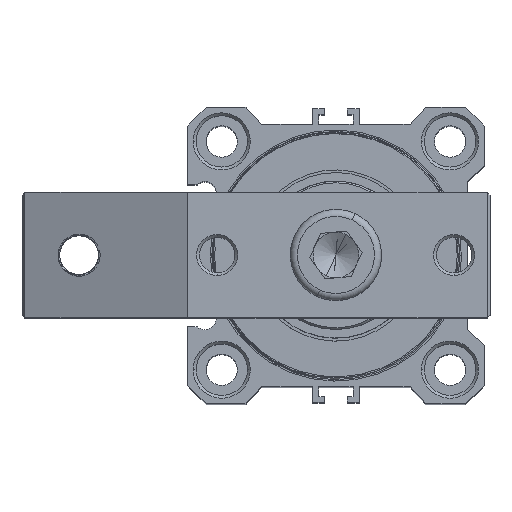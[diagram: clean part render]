
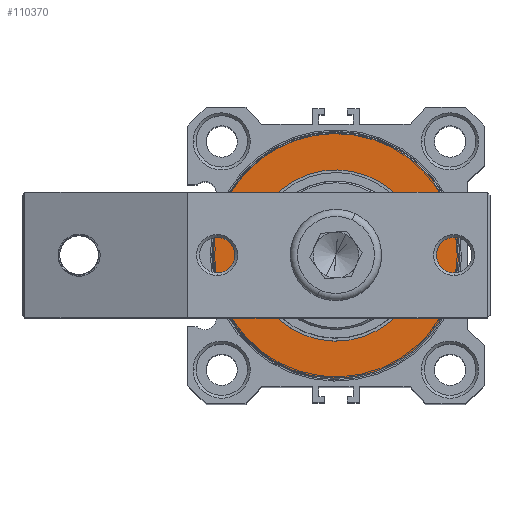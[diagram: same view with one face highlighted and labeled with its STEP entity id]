
A CAD part, top view. The second image highlights one B-rep face of the part: STEP entity #110370.
In plain terms, the highlighted planar face has unit normal (0, 0, 1) as drawn and (0, 1, 0) by its records, which use the part's own axes.
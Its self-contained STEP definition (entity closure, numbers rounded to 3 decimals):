
#105642 = CONICAL_SURFACE('',#105643,22.,0.778);
#105643 = AXIS2_PLACEMENT_3D('',#105644,#105645,#105646);
#105644 = CARTESIAN_POINT('',(-52.576,-100.178,0.));
#105645 = DIRECTION('',(-0.,-1.,-0.));
#105646 = DIRECTION('',(0.,0.,-1.));
#109641 = CYLINDRICAL_SURFACE('',#109642,15.);
#109642 = AXIS2_PLACEMENT_3D('',#109643,#109644,#109645);
#109643 = CARTESIAN_POINT('',(-52.576,-116.705,0.));
#109644 = DIRECTION('',(-0.,-1.,-0.));
#109645 = DIRECTION('',(0.,0.,-1.));
#109670 = VERTEX_POINT('',#109671);
#109671 = CARTESIAN_POINT('',(-52.576,-99.631,
    15.));
#109685 = CYLINDRICAL_SURFACE('',#109686,15.);
#109686 = AXIS2_PLACEMENT_3D('',#109687,#109688,#109689);
#109687 = CARTESIAN_POINT('',(-52.576,-116.705,0.));
#109688 = DIRECTION('',(-0.,-1.,-0.));
#109689 = DIRECTION('',(0.,0.,-1.));
#109697 = EDGE_CURVE('',#109698,#109670,#109700,.T.);
#109698 = VERTEX_POINT('',#109699);
#109699 = CARTESIAN_POINT('',(-52.576,-99.631,-15.));
#109700 = SURFACE_CURVE('',#109701,(#109706,#109713),.PCURVE_S1.);
#109701 = CIRCLE('',#109702,15.);
#109702 = AXIS2_PLACEMENT_3D('',#109703,#109704,#109705);
#109703 = CARTESIAN_POINT('',(-52.576,-99.631,0.));
#109704 = DIRECTION('',(0.,-1.,-0.));
#109705 = DIRECTION('',(0.,0.,-1.));
#109706 = PCURVE('',#109641,#109707);
#109707 = DEFINITIONAL_REPRESENTATION('',(#109708),#109712);
#109708 = LINE('',#109709,#109710);
#109709 = CARTESIAN_POINT('',(0.,-17.074));
#109710 = VECTOR('',#109711,1.);
#109711 = DIRECTION('',(1.,0.));
#109712 = ( GEOMETRIC_REPRESENTATION_CONTEXT(2) 
PARAMETRIC_REPRESENTATION_CONTEXT() REPRESENTATION_CONTEXT('2D SPACE',''
  ) );
#109713 = PCURVE('',#109714,#109719);
#109714 = PLANE('',#109715);
#109715 = AXIS2_PLACEMENT_3D('',#109716,#109717,#109718);
#109716 = CARTESIAN_POINT('',(-37.576,-99.631,0.));
#109717 = DIRECTION('',(0.,1.,0.));
#109718 = DIRECTION('',(0.,-0.,1.));
#109719 = DEFINITIONAL_REPRESENTATION('',(#109720),#109728);
#109720 = ( BOUNDED_CURVE() B_SPLINE_CURVE(2,(#109721,#109722,#109723,
    #109724,#109725,#109726,#109727),.UNSPECIFIED.,.T.,.F.) 
B_SPLINE_CURVE_WITH_KNOTS((1,2,2,2,2,1),(-2.094,0.,
    2.094,4.189,6.283,8.378),
.UNSPECIFIED.) CURVE() GEOMETRIC_REPRESENTATION_ITEM() 
RATIONAL_B_SPLINE_CURVE((1.,0.5,1.,0.5,1.,0.5,1.)) REPRESENTATION_ITEM(
  '') );
#109721 = CARTESIAN_POINT('',(-15.,-15.));
#109722 = CARTESIAN_POINT('',(-15.,10.981));
#109723 = CARTESIAN_POINT('',(7.5,-2.01));
#109724 = CARTESIAN_POINT('',(30.,-15.));
#109725 = CARTESIAN_POINT('',(7.5,-27.99));
#109726 = CARTESIAN_POINT('',(-15.,-40.981));
#109727 = CARTESIAN_POINT('',(-15.,-15.));
#109728 = ( GEOMETRIC_REPRESENTATION_CONTEXT(2) 
PARAMETRIC_REPRESENTATION_CONTEXT() REPRESENTATION_CONTEXT('2D SPACE',''
  ) );
#109754 = EDGE_CURVE('',#109755,#109757,#109759,.T.);
#109755 = VERTEX_POINT('',#109756);
#109756 = CARTESIAN_POINT('',(-52.576,-99.631,
    -21.461));
#109757 = VERTEX_POINT('',#109758);
#109758 = CARTESIAN_POINT('',(-52.576,-99.631,
    21.461));
#109759 = SURFACE_CURVE('',#109760,(#109765,#109772),.PCURVE_S1.);
#109760 = CIRCLE('',#109761,21.461);
#109761 = AXIS2_PLACEMENT_3D('',#109762,#109763,#109764);
#109762 = CARTESIAN_POINT('',(-52.576,-99.631,0.));
#109763 = DIRECTION('',(0.,-1.,-0.));
#109764 = DIRECTION('',(0.,0.,-1.));
#109765 = PCURVE('',#105642,#109766);
#109766 = DEFINITIONAL_REPRESENTATION('',(#109767),#109771);
#109767 = LINE('',#109768,#109769);
#109768 = CARTESIAN_POINT('',(0.,-0.547));
#109769 = VECTOR('',#109770,1.);
#109770 = DIRECTION('',(1.,0.));
#109771 = ( GEOMETRIC_REPRESENTATION_CONTEXT(2) 
PARAMETRIC_REPRESENTATION_CONTEXT() REPRESENTATION_CONTEXT('2D SPACE',''
  ) );
#109772 = PCURVE('',#109714,#109773);
#109773 = DEFINITIONAL_REPRESENTATION('',(#109774),#109782);
#109774 = ( BOUNDED_CURVE() B_SPLINE_CURVE(2,(#109775,#109776,#109777,
    #109778,#109779,#109780,#109781),.UNSPECIFIED.,.T.,.F.) 
B_SPLINE_CURVE_WITH_KNOTS((1,2,2,2,2,1),(-2.094,0.,
    2.094,4.189,6.283,8.378),
.UNSPECIFIED.) CURVE() GEOMETRIC_REPRESENTATION_ITEM() 
RATIONAL_B_SPLINE_CURVE((1.,0.5,1.,0.5,1.,0.5,1.)) REPRESENTATION_ITEM(
  '') );
#109775 = CARTESIAN_POINT('',(-21.461,-15.));
#109776 = CARTESIAN_POINT('',(-21.461,22.171));
#109777 = CARTESIAN_POINT('',(10.73,3.586));
#109778 = CARTESIAN_POINT('',(42.922,-15.));
#109779 = CARTESIAN_POINT('',(10.73,-33.586));
#109780 = CARTESIAN_POINT('',(-21.461,-52.171));
#109781 = CARTESIAN_POINT('',(-21.461,-15.));
#109782 = ( GEOMETRIC_REPRESENTATION_CONTEXT(2) 
PARAMETRIC_REPRESENTATION_CONTEXT() REPRESENTATION_CONTEXT('2D SPACE',''
  ) );
#109798 = CONICAL_SURFACE('',#109799,22.,0.778);
#109799 = AXIS2_PLACEMENT_3D('',#109800,#109801,#109802);
#109800 = CARTESIAN_POINT('',(-52.576,-100.178,0.));
#109801 = DIRECTION('',(-0.,-1.,-0.));
#109802 = DIRECTION('',(0.,0.,-1.));
#110322 = EDGE_CURVE('',#109757,#109755,#110323,.T.);
#110323 = SURFACE_CURVE('',#110324,(#110329,#110336),.PCURVE_S1.);
#110324 = CIRCLE('',#110325,21.461);
#110325 = AXIS2_PLACEMENT_3D('',#110326,#110327,#110328);
#110326 = CARTESIAN_POINT('',(-52.576,-99.631,0.));
#110327 = DIRECTION('',(0.,-1.,-0.));
#110328 = DIRECTION('',(0.,0.,-1.));
#110329 = PCURVE('',#109798,#110330);
#110330 = DEFINITIONAL_REPRESENTATION('',(#110331),#110335);
#110331 = LINE('',#110332,#110333);
#110332 = CARTESIAN_POINT('',(0.,-0.547));
#110333 = VECTOR('',#110334,1.);
#110334 = DIRECTION('',(1.,0.));
#110335 = ( GEOMETRIC_REPRESENTATION_CONTEXT(2) 
PARAMETRIC_REPRESENTATION_CONTEXT() REPRESENTATION_CONTEXT('2D SPACE',''
  ) );
#110336 = PCURVE('',#109714,#110337);
#110337 = DEFINITIONAL_REPRESENTATION('',(#110338),#110346);
#110338 = ( BOUNDED_CURVE() B_SPLINE_CURVE(2,(#110339,#110340,#110341,
    #110342,#110343,#110344,#110345),.UNSPECIFIED.,.T.,.F.) 
B_SPLINE_CURVE_WITH_KNOTS((1,2,2,2,2,1),(-2.094,0.,
    2.094,4.189,6.283,8.378),
.UNSPECIFIED.) CURVE() GEOMETRIC_REPRESENTATION_ITEM() 
RATIONAL_B_SPLINE_CURVE((1.,0.5,1.,0.5,1.,0.5,1.)) REPRESENTATION_ITEM(
  '') );
#110339 = CARTESIAN_POINT('',(-21.461,-15.));
#110340 = CARTESIAN_POINT('',(-21.461,22.171));
#110341 = CARTESIAN_POINT('',(10.73,3.586));
#110342 = CARTESIAN_POINT('',(42.922,-15.));
#110343 = CARTESIAN_POINT('',(10.73,-33.586));
#110344 = CARTESIAN_POINT('',(-21.461,-52.171));
#110345 = CARTESIAN_POINT('',(-21.461,-15.));
#110346 = ( GEOMETRIC_REPRESENTATION_CONTEXT(2) 
PARAMETRIC_REPRESENTATION_CONTEXT() REPRESENTATION_CONTEXT('2D SPACE',''
  ) );
#110370 = ADVANCED_FACE('',(#110371,#110400),#109714,.T.);
#110371 = FACE_BOUND('',#110372,.T.);
#110372 = EDGE_LOOP('',(#110373,#110374));
#110373 = ORIENTED_EDGE('',*,*,#109697,.T.);
#110374 = ORIENTED_EDGE('',*,*,#110375,.T.);
#110375 = EDGE_CURVE('',#109670,#109698,#110376,.T.);
#110376 = SURFACE_CURVE('',#110377,(#110382,#110393),.PCURVE_S1.);
#110377 = CIRCLE('',#110378,15.);
#110378 = AXIS2_PLACEMENT_3D('',#110379,#110380,#110381);
#110379 = CARTESIAN_POINT('',(-52.576,-99.631,0.));
#110380 = DIRECTION('',(0.,-1.,-0.));
#110381 = DIRECTION('',(0.,0.,-1.));
#110382 = PCURVE('',#109714,#110383);
#110383 = DEFINITIONAL_REPRESENTATION('',(#110384),#110392);
#110384 = ( BOUNDED_CURVE() B_SPLINE_CURVE(2,(#110385,#110386,#110387,
    #110388,#110389,#110390,#110391),.UNSPECIFIED.,.T.,.F.) 
B_SPLINE_CURVE_WITH_KNOTS((1,2,2,2,2,1),(-2.094,0.,
    2.094,4.189,6.283,8.378),
.UNSPECIFIED.) CURVE() GEOMETRIC_REPRESENTATION_ITEM() 
RATIONAL_B_SPLINE_CURVE((1.,0.5,1.,0.5,1.,0.5,1.)) REPRESENTATION_ITEM(
  '') );
#110385 = CARTESIAN_POINT('',(-15.,-15.));
#110386 = CARTESIAN_POINT('',(-15.,10.981));
#110387 = CARTESIAN_POINT('',(7.5,-2.01));
#110388 = CARTESIAN_POINT('',(30.,-15.));
#110389 = CARTESIAN_POINT('',(7.5,-27.99));
#110390 = CARTESIAN_POINT('',(-15.,-40.981));
#110391 = CARTESIAN_POINT('',(-15.,-15.));
#110392 = ( GEOMETRIC_REPRESENTATION_CONTEXT(2) 
PARAMETRIC_REPRESENTATION_CONTEXT() REPRESENTATION_CONTEXT('2D SPACE',''
  ) );
#110393 = PCURVE('',#109685,#110394);
#110394 = DEFINITIONAL_REPRESENTATION('',(#110395),#110399);
#110395 = LINE('',#110396,#110397);
#110396 = CARTESIAN_POINT('',(0.,-17.074));
#110397 = VECTOR('',#110398,1.);
#110398 = DIRECTION('',(1.,0.));
#110399 = ( GEOMETRIC_REPRESENTATION_CONTEXT(2) 
PARAMETRIC_REPRESENTATION_CONTEXT() REPRESENTATION_CONTEXT('2D SPACE',''
  ) );
#110400 = FACE_BOUND('',#110401,.T.);
#110401 = EDGE_LOOP('',(#110402,#110403));
#110402 = ORIENTED_EDGE('',*,*,#109754,.F.);
#110403 = ORIENTED_EDGE('',*,*,#110322,.F.);
